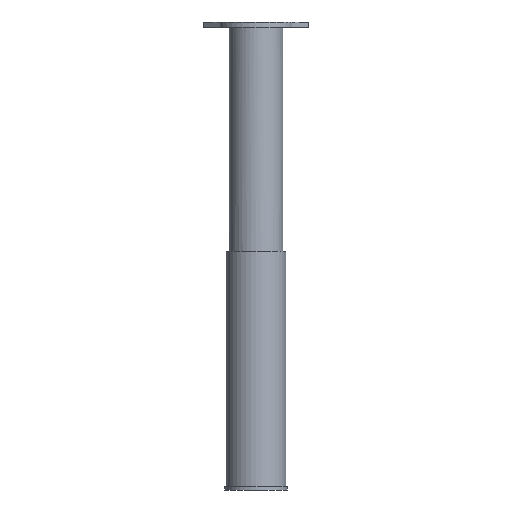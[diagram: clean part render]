
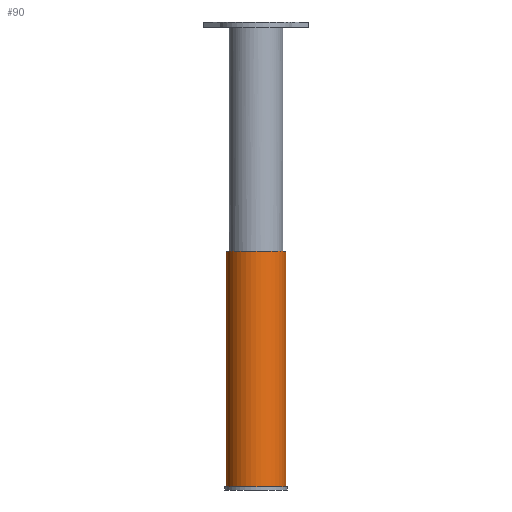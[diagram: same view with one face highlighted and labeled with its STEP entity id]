
A CAD part, front view. The second image highlights one B-rep face of the part: STEP entity #90.
In plain terms, the highlighted cylindrical face has radius 44.5 mm (diameter 89 mm), a full revolution.
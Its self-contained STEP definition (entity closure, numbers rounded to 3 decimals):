
#90 = ADVANCED_FACE( '', ( #234, #235 ), #236, .T. );
#234 = FACE_OUTER_BOUND( '', #415, .T. );
#235 = FACE_OUTER_BOUND( '', #416, .T. );
#236 = CYLINDRICAL_SURFACE( '', #417, 44.5 );
#415 = EDGE_LOOP( '', ( #677 ) );
#416 = EDGE_LOOP( '', ( #678 ) );
#417 = AXIS2_PLACEMENT_3D( '', #679, #680, #681 );
#677 = ORIENTED_EDGE( '', *, *, #1031, .F. );
#678 = ORIENTED_EDGE( '', *, *, #1044, .T. );
#679 = CARTESIAN_POINT( '', ( 0., 0., -8. ) );
#680 = DIRECTION( '', ( 0., 0., -1. ) );
#681 = DIRECTION( '', ( 1., 0., 0. ) );
#1031 = EDGE_CURVE( '', #1265, #1265, #1266, .T. );
#1044 = EDGE_CURVE( '', #1281, #1281, #1282, .T. );
#1265 = VERTEX_POINT( '', #1549 );
#1266 = CIRCLE( '', #1550, 44.5 );
#1281 = VERTEX_POINT( '', #1570 );
#1282 = CIRCLE( '', #1571, 44.5 );
#1549 = CARTESIAN_POINT( '', ( 44.5, 0., -340.24 ) );
#1550 = AXIS2_PLACEMENT_3D( '', #1806, #1807, #1808 );
#1570 = CARTESIAN_POINT( '', ( 44.5, 0., -690. ) );
#1571 = AXIS2_PLACEMENT_3D( '', #1820, #1821, #1822 );
#1806 = CARTESIAN_POINT( '', ( 0., 0., -340.24 ) );
#1807 = DIRECTION( '', ( 0., 0., 1. ) );
#1808 = DIRECTION( '', ( 1., 0., 0. ) );
#1820 = CARTESIAN_POINT( '', ( 0., 0., -690. ) );
#1821 = DIRECTION( '', ( 0., 0., 1. ) );
#1822 = DIRECTION( '', ( 1., 0., 0. ) );
